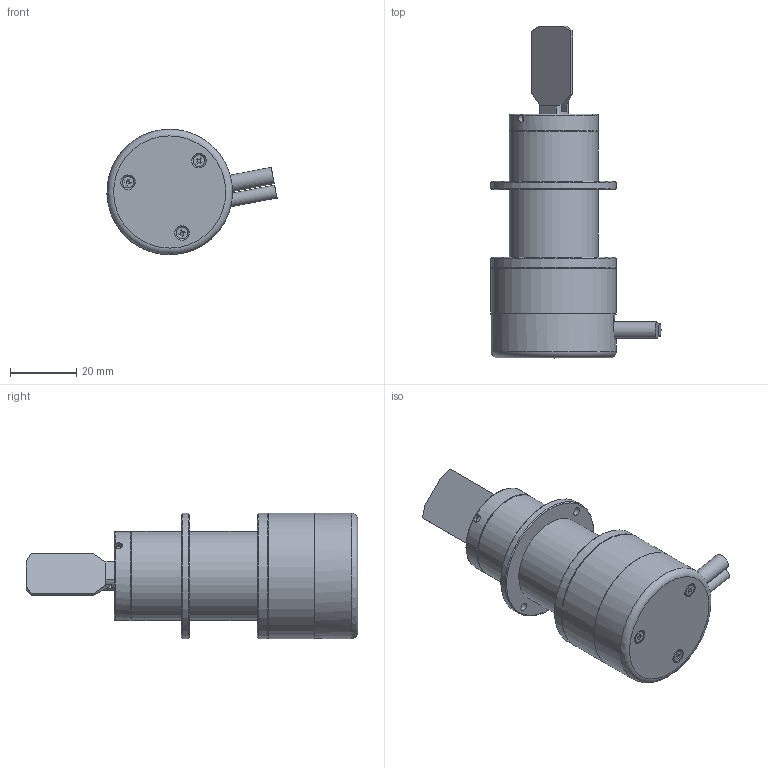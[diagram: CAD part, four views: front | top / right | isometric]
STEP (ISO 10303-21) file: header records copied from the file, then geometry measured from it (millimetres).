
FILE_DESCRIPTION (( 'STEP AP203' ), '1' );
FILE_NAME ('OD15_12mmY.STEP', '2025-03-19T08:19:19', ( 'zouluheng@hotmail.com' ), ( '' ), 'SwSTEP 2.0', 'SolidWorks 2023', '' );
FILE_SCHEMA (( 'CONFIG_CONTROL_DESIGN' ));
Length unit declared in the file: millimetre
Products named in the file (1): OD15_12mmY
Bounding box: 51.52 x 100.55 x 37.99 mm (x, y, z)
Surface area: 15897.5 mm2 (no closed solid volume)
Topology: 0 solids, 22 shells, 174 faces, 541 edges, 384 vertices
Faces by surface type: plane 106, cylinder 49, cone 14, torus 3, sphere 2
Full cylindrical faces by diameter (mm): 1 x2, 2.3 x2, 2.5 x2, 2.7 x1, 3.5 x3, 4 x1, 4.5 x2, 5 x1, 12 x2, 27 x3, 35.4 x1, 37 x1, 38 x4
Entity records: 6136 total; most frequent: CARTESIAN_POINT 1328, DIRECTION 996, ORIENTED_EDGE 838, EDGE_CURVE 495, VERTEX_POINT 376, AXIS2_PLACEMENT_3D 372, EDGE_LOOP 275, VECTOR 252
